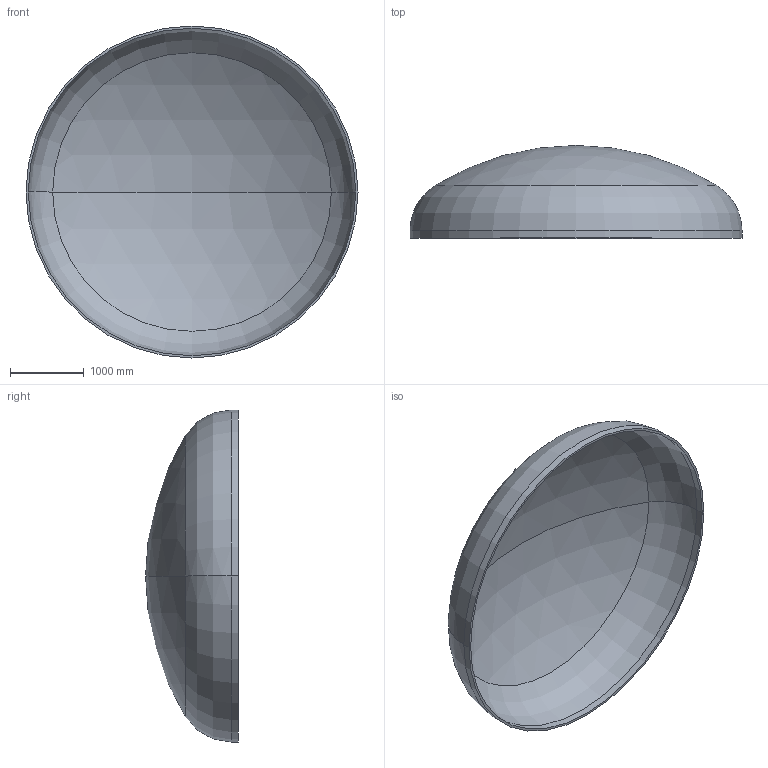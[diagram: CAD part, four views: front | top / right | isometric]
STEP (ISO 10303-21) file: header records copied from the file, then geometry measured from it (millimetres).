
FILE_DESCRIPTION (( 'STEP AP203' ), '1' );
FILE_NAME ('DIN 28013 Korbbogenform_-_Boden DIN 28013 - 4500 x 100 - I - s=31.step', '2016-07-01T23:17:20', ( '' ), ( '' ), 'SwSTEP 2.0', 'SolidWorks 2013', '' );
FILE_SCHEMA (( 'CONFIG_CONTROL_DESIGN' ));
Length unit declared in the file: millimetre
Products named in the file (1): DIN 28013 Korbbogenform_-_Boden DIN 28013 - 4500 x 100 - I - s=31
Bounding box: 4500 x 1257.85 x 4500 mm (x, y, z)
Volume: 720567163.6 mm3; surface area: 46925432.1 mm2
Topology: 1 solids, 1 shells, 13 faces, 24 edges, 14 vertices
Faces by surface type: torus 4, cylinder 4, sphere 4, plane 1
Entity records: 407 total; most frequent: DIRECTION 72, CARTESIAN_POINT 52, ORIENTED_EDGE 48, AXIS2_PLACEMENT_3D 34, EDGE_CURVE 24, CIRCLE 20, EDGE_LOOP 14, VERTEX_POINT 14
